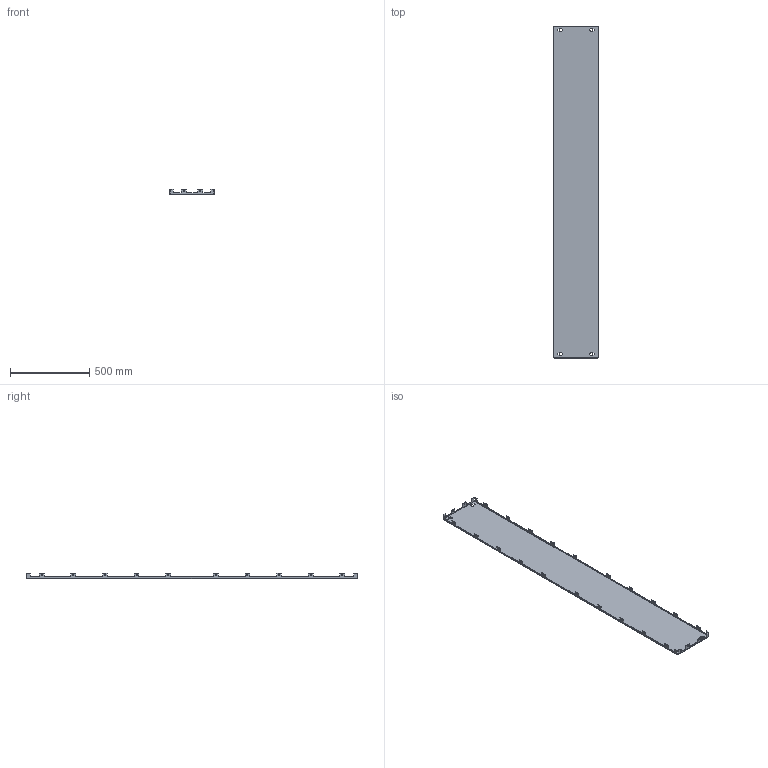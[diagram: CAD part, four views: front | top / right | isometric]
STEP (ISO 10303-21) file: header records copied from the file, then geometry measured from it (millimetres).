
FILE_DESCRIPTION (( 'STEP AP203' ), '1' );
FILE_NAME ('R5LPS2204.STEP', '2021-12-17T12:23:09', ( '' ), ( '' ), 'SwSTEP 2.0', 'SolidWorks 2020', '' );
FILE_SCHEMA (( 'CONFIG_CONTROL_DESIGN' ));
Length unit declared in the file: millimetre
Products named in the file (1): R5LPS2204
Bounding box: 284 x 2098 x 32.5 mm (x, y, z)
Volume: 1294704.2 mm3; surface area: 1308962.7 mm2
Topology: 1 solids, 1 shells, 432 faces, 1258 edges, 828 vertices
Faces by surface type: plane 274, cylinder 158
Entity records: 14431 total; most frequent: CARTESIAN_POINT 2519, ORIENTED_EDGE 2516, DIRECTION 2440, EDGE_CURVE 1258, LINE 942, VECTOR 942, VERTEX_POINT 828, AXIS2_PLACEMENT_3D 749
